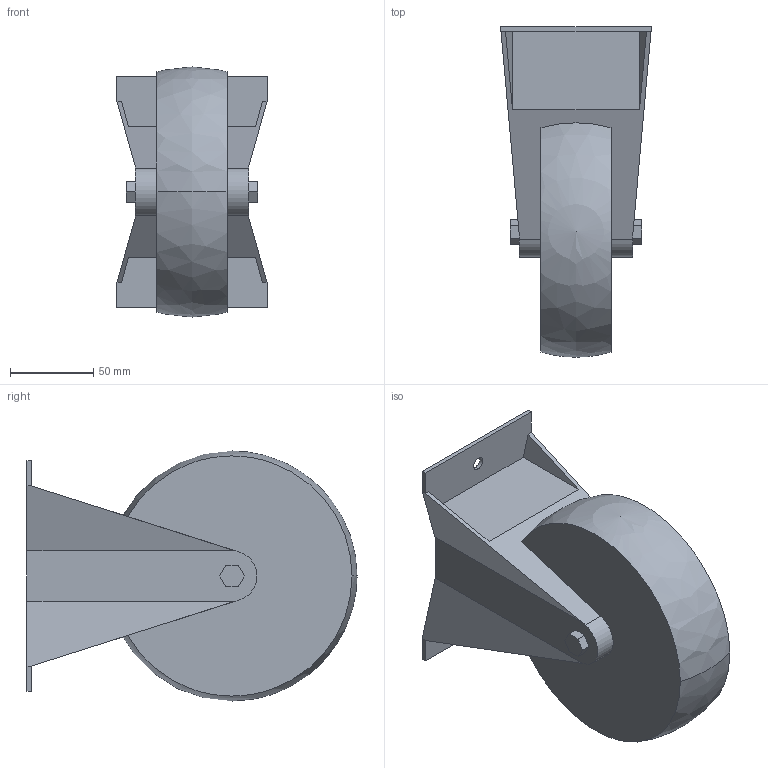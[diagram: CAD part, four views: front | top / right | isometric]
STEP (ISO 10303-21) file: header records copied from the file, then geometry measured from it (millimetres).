
FILE_DESCRIPTION (( 'STEP AP214' ), '1' );
FILE_NAME ('SK-150_SK-150VU.step', '2024-02-19T02:01:10', ( 'catia' ), ( 'HP Inc.' ), 'SwSTEP 2.0', 'SolidWorks 2021', '' );
FILE_SCHEMA (( 'AUTOMOTIVE_DESIGN' ));
Length unit declared in the file: millimetre
Products named in the file (1): SK-150_SK-150VU
Bounding box: 90 x 198 x 150 mm (x, y, z)
Volume: 1151524.4 mm3; surface area: 92868.7 mm2
Topology: 1 solids, 1 shells, 47 faces, 130 edges, 85 vertices
Faces by surface type: plane 39, cylinder 6, sphere 2
Entity records: 1488 total; most frequent: CARTESIAN_POINT 255, ORIENTED_EDGE 250, DIRECTION 240, EDGE_CURVE 125, VECTOR 106, LINE 106, VERTEX_POINT 82, AXIS2_PLACEMENT_3D 67
